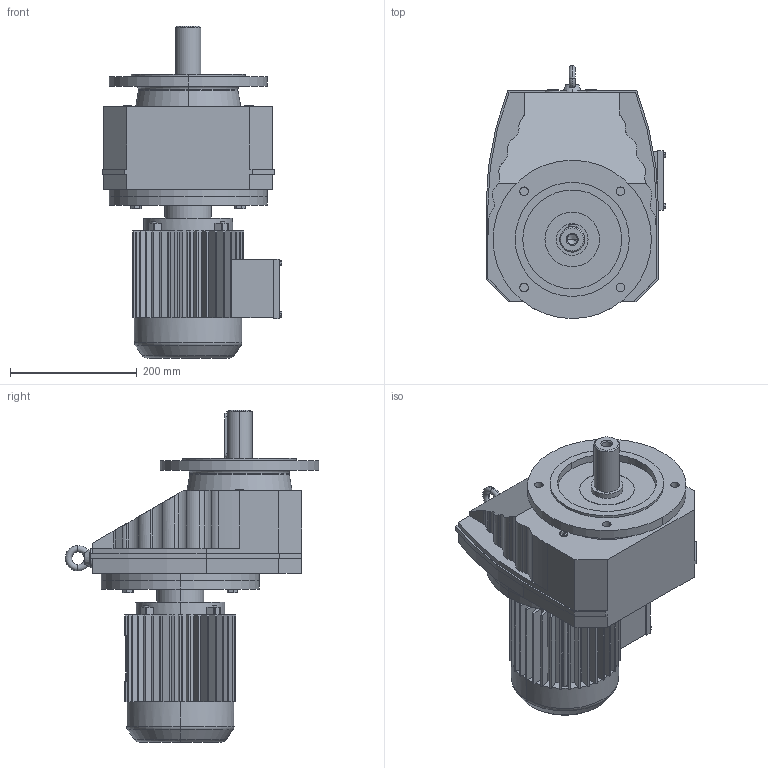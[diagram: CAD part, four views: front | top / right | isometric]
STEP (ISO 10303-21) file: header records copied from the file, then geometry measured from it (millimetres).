
FILE_DESCRIPTION(('Open CASCADE Model'),'2;1');
FILE_NAME('Open CASCADE Shape Model','2018-09-13T11:44:30',('Author'),( 'Open CASCADE'),'Open CASCADE STEP processor 6.3','Open CASCADE 6.3' ,'Unknown');
FILE_SCHEMA(('AUTOMOTIVE_DESIGN_CC2 { 1 2 10303 214 -1 1 5 4 }'));
Length unit declared in the file: millimetre
Products named in the file (3): 265_RXF87-Y80M-250; RXF57‵107_87_250.step; 萇儂_250_Y80M.step
Assembly tree (2 placements, depth 2):
  265_RXF87-Y80M-250
    RXF57‵107_87_250.step
    萇儂_250_Y80M.step
Bounding box: 284 x 400 x 524 mm (x, y, z)
Volume: 16535373.4 mm3; surface area: 840846.9 mm2
Topology: 2 solids, 2 shells, 630 faces, 1654 edges, 1064 vertices
Faces by surface type: plane 417, cylinder 187, torus 14, cone 12
Entity records: 43969 total; most frequent: CARTESIAN_POINT 12863, DIRECTION 5337, ORIENTED_EDGE 3304, PCURVE 3304, DEFINITIONAL_REPRESENTATION 3304, LINE 2740, VECTOR 2740, EDGE_CURVE 1652
